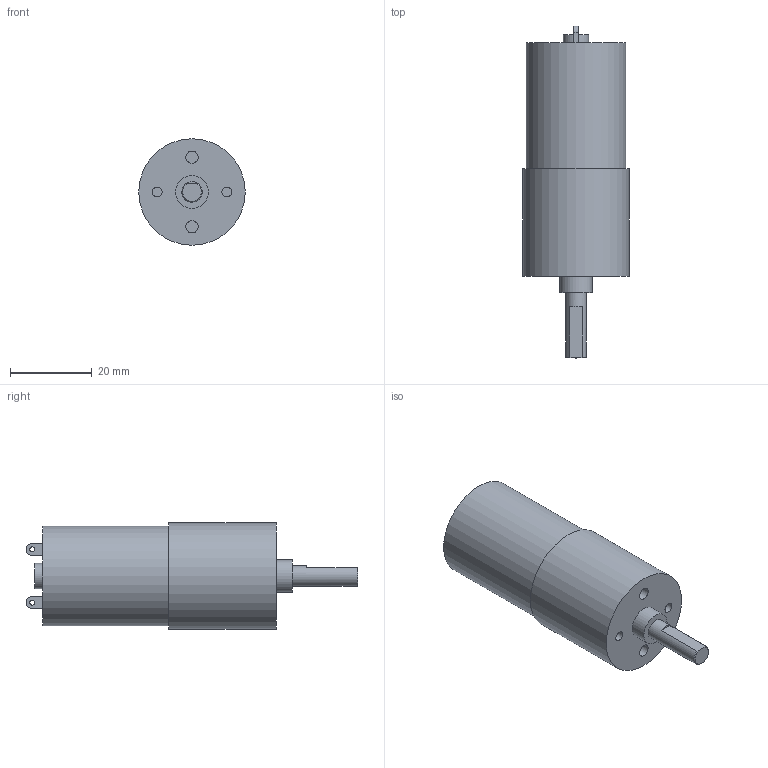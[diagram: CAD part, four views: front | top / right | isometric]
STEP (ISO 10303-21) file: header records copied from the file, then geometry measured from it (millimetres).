
FILE_DESCRIPTION((''),'2;1');
FILE_NAME('E:\2공장-도면\3D\표준형 3D(민규)\1공장 step\K26 SERIES.stp','2015-02-26T17:24:13',('AHN'),(''),'Autodesk Inventor 2012','Autodesk Inventor 2012','');
FILE_SCHEMA(('CONFIG_CONTROL_DESIGN'));
Length unit declared in the file: millimetre
Products named in the file (1): K26
Bounding box: 26 x 81.1 x 26 mm (x, y, z)
Volume: 28802.6 mm3; surface area: 6147.3 mm2
Topology: 1 solids, 1 shells, 34 faces, 66 edges, 44 vertices
Faces by surface type: plane 20, cylinder 13, cone 1
Full cylindrical faces by diameter (mm): 1.2 x2, 2.4 x2, 3 x2, 5 x1, 6.2 x1, 8 x1, 24.4 x1, 26 x1
Entity records: 846 total; most frequent: DIRECTION 150, CARTESIAN_POINT 136, ORIENTED_EDGE 108, AXIS2_PLACEMENT_3D 63, EDGE_LOOP 59, EDGE_CURVE 54, VERTEX_POINT 43, FACE_OUTER_BOUND 34
